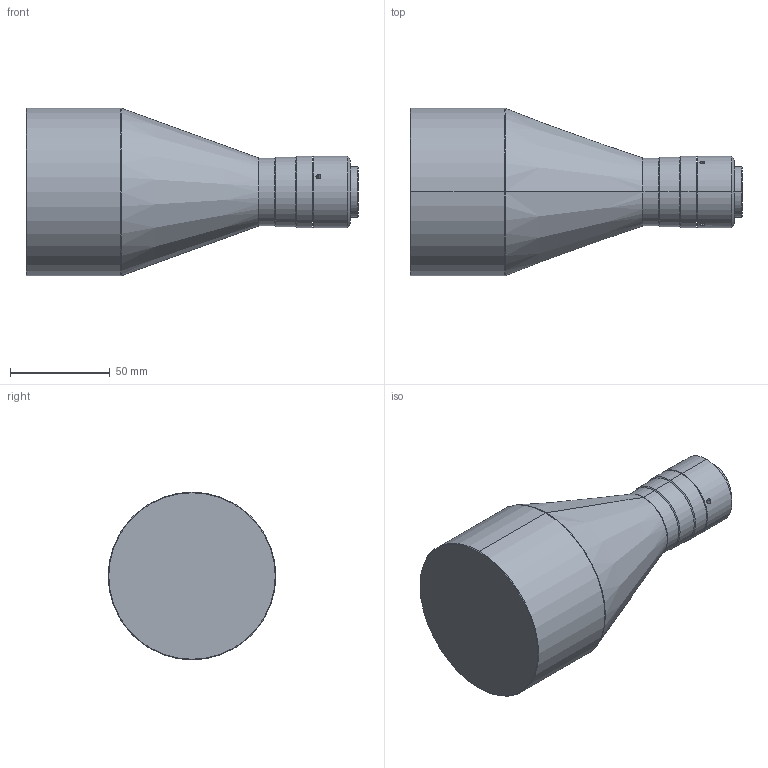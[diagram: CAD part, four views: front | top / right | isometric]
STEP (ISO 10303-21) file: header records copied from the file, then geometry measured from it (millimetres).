
FILE_DESCRIPTION (( 'STEP AP203' ), '1' );
FILE_NAME ('DTCM118-64H-AL.STEP', '2018-04-11T09:15:19', ( '' ), ( '' ), 'SwSTEP 2.0', 'SolidWorks 2012', '' );
FILE_SCHEMA (( 'CONFIG_CONTROL_DESIGN' ));
Length unit declared in the file: millimetre
Products named in the file (1): DTCM118-64H-AL
Bounding box: 166.3 x 84 x 84 mm (x, y, z)
Volume: 509923.2 mm3; surface area: 38907.1 mm2
Topology: 1 solids, 1 shells, 47 faces, 98 edges, 53 vertices
Faces by surface type: cylinder 20, cone 18, plane 5, torus 4
Entity records: 1373 total; most frequent: CARTESIAN_POINT 307, DIRECTION 230, ORIENTED_EDGE 184, AXIS2_PLACEMENT_3D 96, EDGE_CURVE 92, VERTEX_POINT 53, EDGE_LOOP 53, CIRCLE 48
